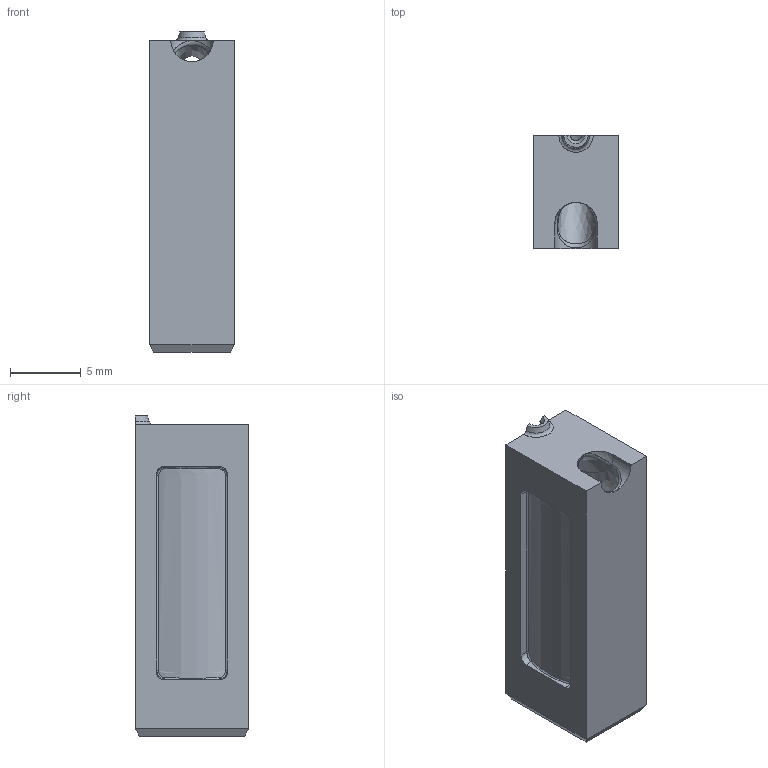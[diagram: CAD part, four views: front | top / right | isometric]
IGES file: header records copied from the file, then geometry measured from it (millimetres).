
Start section: START RECORD GO HERE.
Global section: file name: tgs8-08-s2.igs; native system: DASSAULT SYSTEMES CATIA V5 R20 - www.3ds.com; preprocessor: CATIA Version 5 Release 20 ; author: Utente; organization: NB04-ASUS; date: 20200418.090144; units: millimetre
Bounding box: 6 x 8 x 22.6 mm (x, y, z)
Surface area: 1126.5 mm2 (no closed solid volume)
Topology: 0 solids, 0 shells, 74 faces, 424 edges, 422 vertices
Faces by surface type: revolution 36, plane 20, bspline 18
